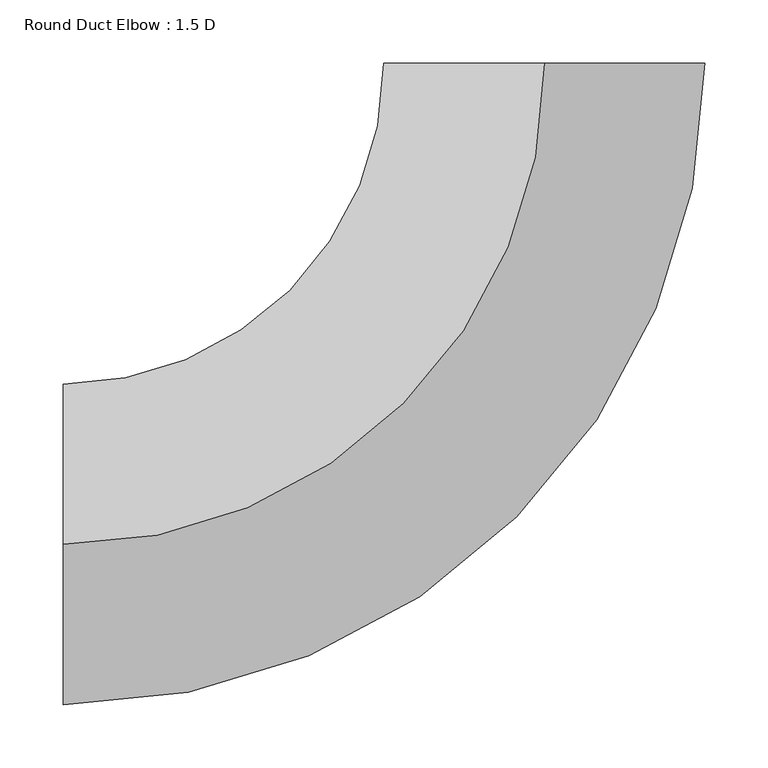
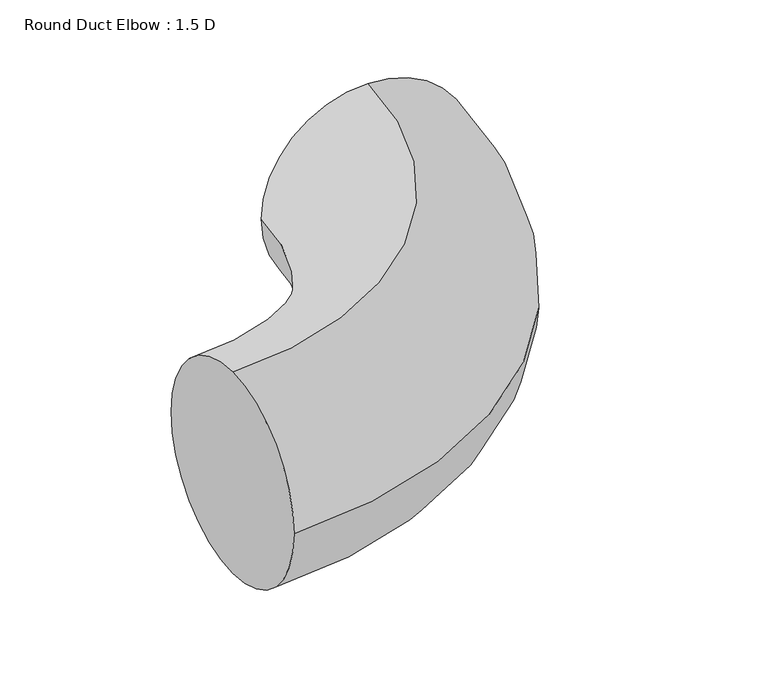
"""IFC4 building model written with IfcOpenShell, lengths in millimetres: duct fitting geometry, Round Duct Elbow : 1.5 D."""

from ifc_helpers import new_model, si_unit, point, frame, origin, place, context, project, spatial, circle_curve, ellipse_curve, trimmed, source, transform, mapped, element, save
from ifc_brep_helpers import plane_surface, revolved_surface, advanced_brep


def round_duct_elbow_1_5_d_a606aaa3(model_context):
    return source(origin(), model_context, "Body", "AdvancedBrep", [
        advanced_brep(
        [(-381.0, 0.0, 127.0), (-381.0, 127.0, 0.0), (-381.0, 0.0, -127.0), (-381.0, -127.0, 0.0), (0.0, 381.0, 127.0), (127.0, 381.0, 0.0), (0.0, 381.0, -127.0), (-127.0, 381.0, 0.0)],
        [
            (0, 1, circle_curve(frame((-381.0, 0.0, 0.0), z_axis=(-1.0, 0.0, 0.0), x_axis=(0.0, 1.0, 0.0)), 127.0)),
            (1, 2, circle_curve(frame((-381.0, 0.0, 0.0), z_axis=(-1.0, 0.0, 0.0), x_axis=(0.0, 1.0, 0.0)), 127.0)),
            (2, 3, circle_curve(frame((-381.0, 0.0, 0.0), z_axis=(-1.0, 0.0, 0.0), x_axis=(0.0, 1.0, 0.0)), 127.0)),
            (3, 0, circle_curve(frame((-381.0, 0.0, 0.0), z_axis=(-1.0, 0.0, 0.0), x_axis=(0.0, 1.0, 0.0)), 127.0)),
            (4, 5, circle_curve(frame((0.0, 381.0, 0.0), z_axis=(0.0, 1.0, 0.0), x_axis=(-1.0, 0.0, 0.0)), 127.0)),
            (5, 6, circle_curve(frame((0.0, 381.0, 0.0), z_axis=(0.0, 1.0, 0.0), x_axis=(-1.0, 0.0, 0.0)), 127.0)),
            (6, 7, circle_curve(frame((0.0, 381.0, 0.0), z_axis=(0.0, 1.0, 0.0), x_axis=(-1.0, 0.0, 0.0)), 127.0)),
            (7, 4, circle_curve(frame((0.0, 381.0, 0.0), z_axis=(0.0, 1.0, 0.0), x_axis=(-1.0, 0.0, 0.0)), 127.0)),
            (7, 1, circle_curve(frame((-381.0, 381.0, 0.0), z_axis=(0.0, 0.0, -1.0), x_axis=(0.0, -1.0, 0.0)), 254.0)),
            (0, 4, circle_curve(frame((-381.0, 381.0, 127.0), z_axis=(0.0, 0.0, 1.0), x_axis=(0.0, -1.0, 0.0)), 381.0)),
            (6, 2, circle_curve(frame((-381.0, 381.0, -127.0), z_axis=(0.0, 0.0, -1.0), x_axis=(0.0, -1.0, 0.0)), 381.0)),
            (5, 3, circle_curve(frame((-381.0, 381.0, 0.0), z_axis=(0.0, 0.0, -1.0), x_axis=(0.0, -1.0, 0.0)), 508.0)),
        ],
        [
            plane_surface(frame((-381.0, 0.0, 0.0), z_axis=(-1.0, 0.0, 0.0), x_axis=(0.0, 0.0, 1.0))),
            plane_surface(frame((0.0, 381.0, 0.0), z_axis=(0.0, 1.0, 0.0), x_axis=(0.0, 0.0, 1.0))),
            revolved_surface(trimmed(ellipse_curve(frame((-381.0, 0.0, 0.0), z_axis=(-1.0, 0.0, 0.0), x_axis=(0.0, 1.0, 0.0)), 127.0, 127.0), [point((-381.0, 0.0, 127.0))], [point((-381.0, 127.0, 0.0))], True, "CARTESIAN"), (-381.0, 381.0, 0.0), (0.0, 0.0, 1.0)),
            revolved_surface(trimmed(ellipse_curve(frame((-381.0, 0.0, 0.0), z_axis=(-1.0, 0.0, 0.0), x_axis=(0.0, 1.0, 0.0)), 127.0, 127.0), [point((-381.0, 127.0, 0.0))], [point((-381.0, 0.0, -127.0))], True, "CARTESIAN"), (-381.0, 381.0, 0.0), (0.0, 0.0, 1.0)),
            revolved_surface(trimmed(ellipse_curve(frame((-381.0, 0.0, 0.0), z_axis=(-1.0, 0.0, 0.0), x_axis=(0.0, 1.0, 0.0)), 127.0, 127.0), [point((-381.0, 0.0, -127.0))], [point((-381.0, -127.0, 0.0))], True, "CARTESIAN"), (-381.0, 381.0, 0.0), (0.0, 0.0, 1.0)),
            revolved_surface(trimmed(ellipse_curve(frame((-381.0, 0.0, 0.0), z_axis=(-1.0, 0.0, 0.0), x_axis=(0.0, 1.0, 0.0)), 127.0, 127.0), [point((-381.0, -127.0, 0.0))], [point((-381.0, 0.0, 127.0))], True, "CARTESIAN"), (-381.0, 381.0, 0.0), (0.0, 0.0, 1.0)),
        ],
        [
            (0, [[1, 2, 3, 4]]),
            (1, [[5, 6, 7, 8]]),
            (2, [[9, -1, 10, -8]]),
            (3, [[11, -2, -9, -7]]),
            (4, [[12, -3, -11, -6]]),
            (5, [[-10, -4, -12, -5]]),
        ],
    ),
        advanced_brep(
        [(-381.0, 0.0, 127.0), (-381.0, 127.0, 0.0), (-381.0, 0.0, -127.0), (-381.0, -127.0, 0.0), (0.0, 381.0, 127.0), (127.0, 381.0, 0.0), (0.0, 381.0, -127.0), (-127.0, 381.0, 0.0)],
        [
            (0, 1, circle_curve(frame((-381.0, 0.0, 0.0), z_axis=(-1.0, 0.0, 0.0), x_axis=(0.0, 1.0, 0.0)), 127.0)),
            (1, 2, circle_curve(frame((-381.0, 0.0, 0.0), z_axis=(-1.0, 0.0, 0.0), x_axis=(0.0, 1.0, 0.0)), 127.0)),
            (2, 3, circle_curve(frame((-381.0, 0.0, 0.0), z_axis=(-1.0, 0.0, 0.0), x_axis=(0.0, 1.0, 0.0)), 127.0)),
            (3, 0, circle_curve(frame((-381.0, 0.0, 0.0), z_axis=(-1.0, 0.0, 0.0), x_axis=(0.0, 1.0, 0.0)), 127.0)),
            (4, 5, circle_curve(frame((0.0, 381.0, 0.0), z_axis=(0.0, 1.0, 0.0), x_axis=(-1.0, 0.0, 0.0)), 127.0)),
            (5, 6, circle_curve(frame((0.0, 381.0, 0.0), z_axis=(0.0, 1.0, 0.0), x_axis=(-1.0, 0.0, 0.0)), 127.0)),
            (6, 7, circle_curve(frame((0.0, 381.0, 0.0), z_axis=(0.0, 1.0, 0.0), x_axis=(-1.0, 0.0, 0.0)), 127.0)),
            (7, 4, circle_curve(frame((0.0, 381.0, 0.0), z_axis=(0.0, 1.0, 0.0), x_axis=(-1.0, 0.0, 0.0)), 127.0)),
            (7, 1, circle_curve(frame((-381.0, 381.0, 0.0), z_axis=(0.0, 0.0, -1.0), x_axis=(0.0, -1.0, 0.0)), 254.0)),
            (0, 4, circle_curve(frame((-381.0, 381.0, 127.0), z_axis=(0.0, 0.0, 1.0), x_axis=(0.0, -1.0, 0.0)), 381.0)),
            (6, 2, circle_curve(frame((-381.0, 381.0, -127.0), z_axis=(0.0, 0.0, -1.0), x_axis=(0.0, -1.0, 0.0)), 381.0)),
            (5, 3, circle_curve(frame((-381.0, 381.0, 0.0), z_axis=(0.0, 0.0, -1.0), x_axis=(0.0, -1.0, 0.0)), 508.0)),
        ],
        [
            plane_surface(frame((-381.0, 0.0, 0.0), z_axis=(-1.0, 0.0, 0.0), x_axis=(0.0, 0.0, 1.0))),
            plane_surface(frame((0.0, 381.0, 0.0), z_axis=(0.0, 1.0, 0.0), x_axis=(0.0, 0.0, 1.0))),
            revolved_surface(trimmed(ellipse_curve(frame((-381.0, 0.0, 0.0), z_axis=(-1.0, 0.0, 0.0), x_axis=(0.0, 1.0, 0.0)), 127.0, 127.0), [point((-381.0, 0.0, 127.0))], [point((-381.0, 127.0, 0.0))], True, "CARTESIAN"), (-381.0, 381.0, 0.0), (0.0, 0.0, 1.0)),
            revolved_surface(trimmed(ellipse_curve(frame((-381.0, 0.0, 0.0), z_axis=(-1.0, 0.0, 0.0), x_axis=(0.0, 1.0, 0.0)), 127.0, 127.0), [point((-381.0, 127.0, 0.0))], [point((-381.0, 0.0, -127.0))], True, "CARTESIAN"), (-381.0, 381.0, 0.0), (0.0, 0.0, 1.0)),
            revolved_surface(trimmed(ellipse_curve(frame((-381.0, 0.0, 0.0), z_axis=(-1.0, 0.0, 0.0), x_axis=(0.0, 1.0, 0.0)), 127.0, 127.0), [point((-381.0, 0.0, -127.0))], [point((-381.0, -127.0, 0.0))], True, "CARTESIAN"), (-381.0, 381.0, 0.0), (0.0, 0.0, 1.0)),
            revolved_surface(trimmed(ellipse_curve(frame((-381.0, 0.0, 0.0), z_axis=(-1.0, 0.0, 0.0), x_axis=(0.0, 1.0, 0.0)), 127.0, 127.0), [point((-381.0, -127.0, 0.0))], [point((-381.0, 0.0, 127.0))], True, "CARTESIAN"), (-381.0, 381.0, 0.0), (0.0, 0.0, 1.0)),
        ],
        [
            (0, [[1, 2, 3, 4]]),
            (1, [[5, 6, 7, 8]]),
            (2, [[9, -1, 10, -8]]),
            (3, [[11, -2, -9, -7]]),
            (4, [[12, -3, -11, -6]]),
            (5, [[-10, -4, -12, -5]]),
        ],
    ),
        advanced_brep(
        [(-381.0, 0.0, 127.0), (-381.0, 127.0, 0.0), (-381.0, 0.0, -127.0), (-381.0, -127.0, 0.0), (0.0, 381.0, 127.0), (127.0, 381.0, 0.0), (0.0, 381.0, -127.0), (-127.0, 381.0, 0.0)],
        [
            (0, 1, circle_curve(frame((-381.0, 0.0, 0.0), z_axis=(-1.0, 0.0, 0.0), x_axis=(0.0, 1.0, 0.0)), 127.0)),
            (1, 2, circle_curve(frame((-381.0, 0.0, 0.0), z_axis=(-1.0, 0.0, 0.0), x_axis=(0.0, 1.0, 0.0)), 127.0)),
            (2, 3, circle_curve(frame((-381.0, 0.0, 0.0), z_axis=(-1.0, 0.0, 0.0), x_axis=(0.0, 1.0, 0.0)), 127.0)),
            (3, 0, circle_curve(frame((-381.0, 0.0, 0.0), z_axis=(-1.0, 0.0, 0.0), x_axis=(0.0, 1.0, 0.0)), 127.0)),
            (4, 5, circle_curve(frame((0.0, 381.0, 0.0), z_axis=(0.0, 1.0, 0.0), x_axis=(-1.0, 0.0, 0.0)), 127.0)),
            (5, 6, circle_curve(frame((0.0, 381.0, 0.0), z_axis=(0.0, 1.0, 0.0), x_axis=(-1.0, 0.0, 0.0)), 127.0)),
            (6, 7, circle_curve(frame((0.0, 381.0, 0.0), z_axis=(0.0, 1.0, 0.0), x_axis=(-1.0, 0.0, 0.0)), 127.0)),
            (7, 4, circle_curve(frame((0.0, 381.0, 0.0), z_axis=(0.0, 1.0, 0.0), x_axis=(-1.0, 0.0, 0.0)), 127.0)),
            (7, 1, circle_curve(frame((-381.0, 381.0, 0.0), z_axis=(0.0, 0.0, -1.0), x_axis=(0.0, -1.0, 0.0)), 254.0)),
            (0, 4, circle_curve(frame((-381.0, 381.0, 127.0), z_axis=(0.0, 0.0, 1.0), x_axis=(0.0, -1.0, 0.0)), 381.0)),
            (6, 2, circle_curve(frame((-381.0, 381.0, -127.0), z_axis=(0.0, 0.0, -1.0), x_axis=(0.0, -1.0, 0.0)), 381.0)),
            (5, 3, circle_curve(frame((-381.0, 381.0, 0.0), z_axis=(0.0, 0.0, -1.0), x_axis=(0.0, -1.0, 0.0)), 508.0)),
        ],
        [
            plane_surface(frame((-381.0, 0.0, 0.0), z_axis=(-1.0, 0.0, 0.0), x_axis=(0.0, 0.0, 1.0))),
            plane_surface(frame((0.0, 381.0, 0.0), z_axis=(0.0, 1.0, 0.0), x_axis=(0.0, 0.0, 1.0))),
            revolved_surface(trimmed(ellipse_curve(frame((-381.0, 0.0, 0.0), z_axis=(-1.0, 0.0, 0.0), x_axis=(0.0, 1.0, 0.0)), 127.0, 127.0), [point((-381.0, 0.0, 127.0))], [point((-381.0, 127.0, 0.0))], True, "CARTESIAN"), (-381.0, 381.0, 0.0), (0.0, 0.0, 1.0)),
            revolved_surface(trimmed(ellipse_curve(frame((-381.0, 0.0, 0.0), z_axis=(-1.0, 0.0, 0.0), x_axis=(0.0, 1.0, 0.0)), 127.0, 127.0), [point((-381.0, 127.0, 0.0))], [point((-381.0, 0.0, -127.0))], True, "CARTESIAN"), (-381.0, 381.0, 0.0), (0.0, 0.0, 1.0)),
            revolved_surface(trimmed(ellipse_curve(frame((-381.0, 0.0, 0.0), z_axis=(-1.0, 0.0, 0.0), x_axis=(0.0, 1.0, 0.0)), 127.0, 127.0), [point((-381.0, 0.0, -127.0))], [point((-381.0, -127.0, 0.0))], True, "CARTESIAN"), (-381.0, 381.0, 0.0), (0.0, 0.0, 1.0)),
            revolved_surface(trimmed(ellipse_curve(frame((-381.0, 0.0, 0.0), z_axis=(-1.0, 0.0, 0.0), x_axis=(0.0, 1.0, 0.0)), 127.0, 127.0), [point((-381.0, -127.0, 0.0))], [point((-381.0, 0.0, 127.0))], True, "CARTESIAN"), (-381.0, 381.0, 0.0), (0.0, 0.0, 1.0)),
        ],
        [
            (0, [[1, 2, 3, 4]]),
            (1, [[5, 6, 7, 8]]),
            (2, [[9, -1, 10, -8]]),
            (3, [[11, -2, -9, -7]]),
            (4, [[12, -3, -11, -6]]),
            (5, [[-10, -4, -12, -5]]),
        ],
    ),
    ])


if __name__ == "__main__":
    model = new_model("IFC4")
    model_context = context("Model", 3, world=origin())
    ifc_project = project(units=[si_unit("LENGTHUNIT", "METRE", prefix="MILLI")], contexts=[model_context])
    site = spatial("IfcSite", under=ifc_project)
    building = spatial("IfcBuilding", under=site)
    placement = place(None, origin())
    round_duct_elbow_1_5_d_shape = round_duct_elbow_1_5_d_a606aaa3(model_context)
    element("IfcDuctFitting", 1, ObjectType="Round Duct Elbow : 1.5 D", at=placement, inside=building, context=model_context, shape_type="MappedRepresentation", body=[
        mapped(round_duct_elbow_1_5_d_shape, transform((0.0, 0.0, 0.0), x_axis=(1.0, 0.0, 0.0), y_axis=(0.0, 1.0, 0.0), z_axis=(0.0, 0.0, 1.0))),
    ])
    save(model, "model.ifc")
